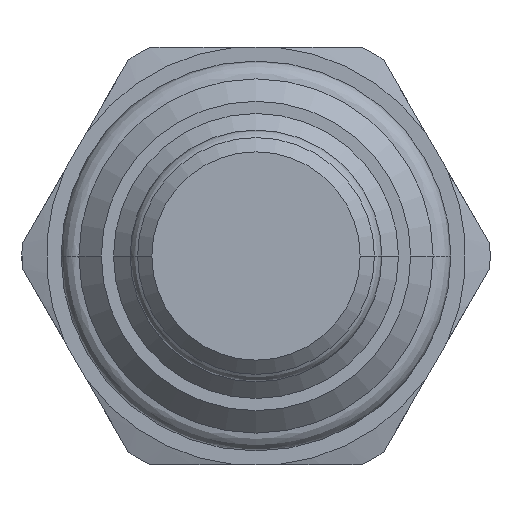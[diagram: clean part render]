
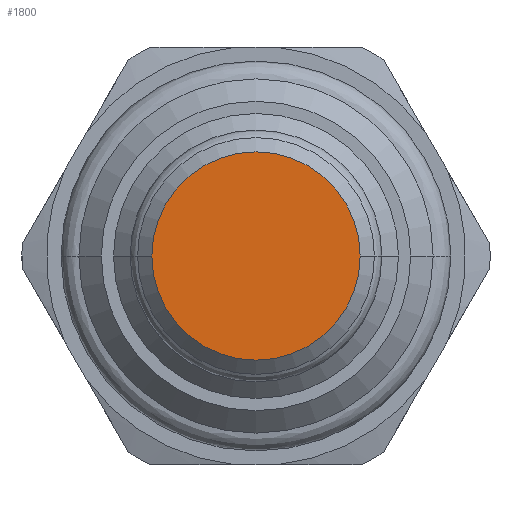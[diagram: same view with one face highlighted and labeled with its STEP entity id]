
A CAD part, front view. The second image highlights one B-rep face of the part: STEP entity #1800.
In plain terms, the highlighted planar face has unit normal (0, -1, 0).
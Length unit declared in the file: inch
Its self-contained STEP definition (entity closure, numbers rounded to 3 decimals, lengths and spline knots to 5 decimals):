
#1=CARTESIAN_POINT('',(0.,-1.095,0.));
#2=DIRECTION('',(0.,1.,0.));
#3=DIRECTION('',(1.,0.,0.));
#4=AXIS2_PLACEMENT_3D('',#1,#2,#3);
#11=CARTESIAN_POINT('',(0.,-1.095,0.));
#12=DIRECTION('',(0.,1.,0.));
#13=DIRECTION('',(-1.,0.,0.));
#14=AXIS2_PLACEMENT_3D('',#11,#12,#13);
#1511=CARTESIAN_POINT('',(0.2185,-1.095,0.));
#1512=CARTESIAN_POINT('',(-0.2185,-1.095,0.));
#1513=VERTEX_POINT('',#1511);
#1514=VERTEX_POINT('',#1512);
#1789=CARTESIAN_POINT('',(0.,-1.095,0.));
#1790=DIRECTION('',(0.,1.,0.));
#1791=DIRECTION('',(1.,0.,0.));
#1792=AXIS2_PLACEMENT_3D('',#1789,#1790,#1791);
#1793=PLANE('',#1792);
#1795=ORIENTED_EDGE('',*,*,#1794,.T.);
#1797=ORIENTED_EDGE('',*,*,#1796,.T.);
#1798=EDGE_LOOP('',(#1795,#1797));
#1799=FACE_OUTER_BOUND('',#1798,.F.);
#1800=ADVANCED_FACE('',(#1799),#1793,.F.);
#5=CIRCLE('',#4,0.2185);
#15=CIRCLE('',#14,0.2185);
#1794=EDGE_CURVE('',#1513,#1514,#5,.T.);
#1796=EDGE_CURVE('',#1514,#1513,#15,.T.);
